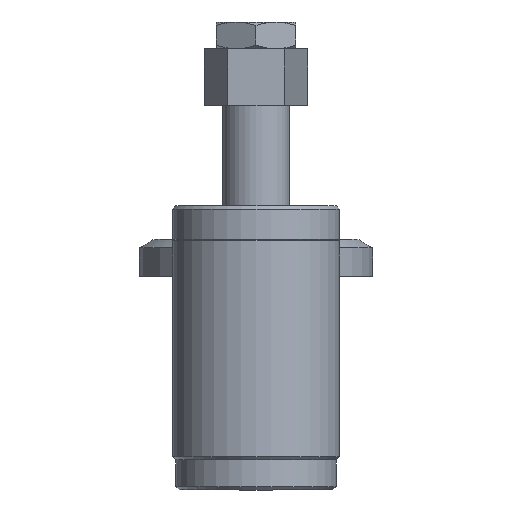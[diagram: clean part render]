
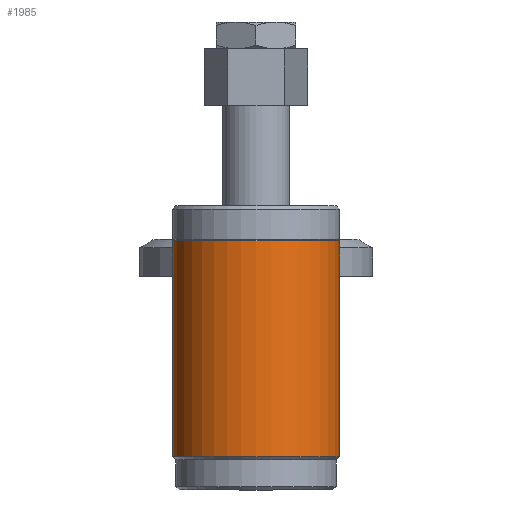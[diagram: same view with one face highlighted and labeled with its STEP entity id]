
A CAD part, left-side view. The second image highlights one B-rep face of the part: STEP entity #1985.
In plain terms, the highlighted cylindrical face has radius 25 mm (diameter 50 mm), a full revolution.
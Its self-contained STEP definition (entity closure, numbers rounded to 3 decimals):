
#84=CYLINDRICAL_SURFACE('',#2150,25.);
#131=CIRCLE('',#2129,25.);
#141=CIRCLE('',#2149,25.);
#355=ORIENTED_EDGE('',*,*,#592,.T.);
#356=ORIENTED_EDGE('',*,*,#602,.T.);
#592=EDGE_CURVE('',#737,#737,#131,.T.);
#602=EDGE_CURVE('',#747,#747,#141,.T.);
#737=VERTEX_POINT('',#2852);
#747=VERTEX_POINT('',#2882);
#1017=EDGE_LOOP('',(#355));
#1018=EDGE_LOOP('',(#356));
#1163=FACE_BOUND('',#1017,.T.);
#1164=FACE_BOUND('',#1018,.T.);
#1985=ADVANCED_FACE('',(#1163,#1164),#84,.T.);
#2129=AXIS2_PLACEMENT_3D('',#2851,#2393,#2394);
#2149=AXIS2_PLACEMENT_3D('',#2881,#2433,#2434);
#2150=AXIS2_PLACEMENT_3D('',#2883,#2435,#2436);
#2393=DIRECTION('',(0.,0.,-1.));
#2394=DIRECTION('',(-1.,0.,0.));
#2433=DIRECTION('',(0.,0.,1.));
#2434=DIRECTION('',(1.,0.,0.));
#2435=DIRECTION('',(0.,0.,1.));
#2436=DIRECTION('',(1.,0.,0.));
#2851=CARTESIAN_POINT('',(0.,0.,74.5));
#2852=CARTESIAN_POINT('',(-25.,0.,74.5));
#2881=CARTESIAN_POINT('',(0.,0.,10.));
#2882=CARTESIAN_POINT('',(25.,0.,10.));
#2883=CARTESIAN_POINT('',(0.,0.,156.4));
